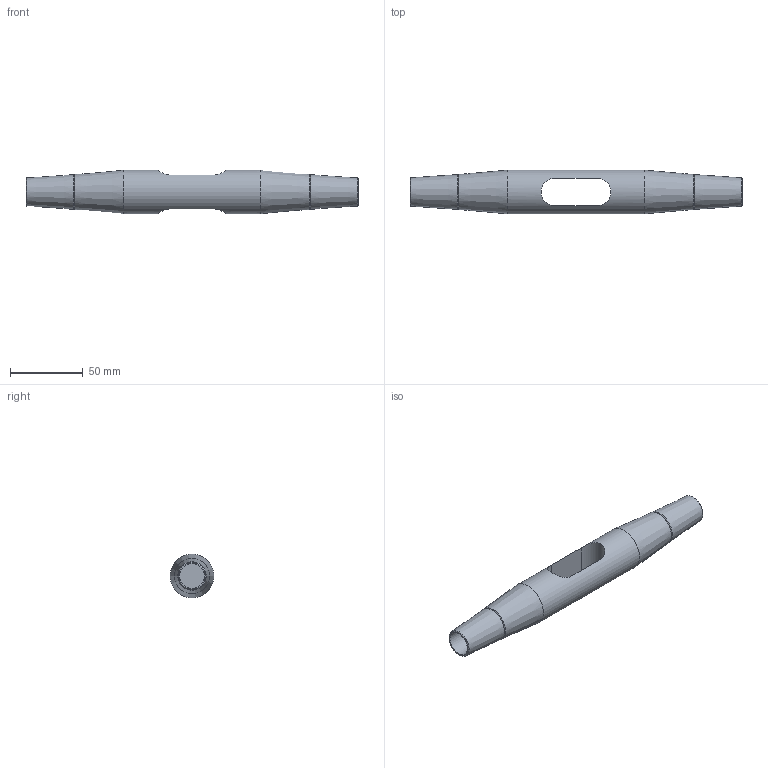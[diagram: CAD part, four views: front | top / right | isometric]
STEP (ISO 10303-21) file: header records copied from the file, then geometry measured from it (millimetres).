
FILE_DESCRIPTION(/* description */ (''),/* implementation_level */ '2;1');
FILE_NAME(/* name */ 'G:\Engineering\700 CAD\Internet-PX-1-step-igs-dxf\520-KMF-Arbeitsdateien\520-016-KMF.stp',/* time_stamp */ '2020-07-02T13:18:37+02:00',/* author */ ('schwarz'),/* organization */ (''),/* preprocessor_version */ 'ST-DEVELOPER v16.1',/* originating_system */ 'Autodesk Inventor 2016',/* authorisation */ '');
FILE_SCHEMA (('AUTOMOTIVE_DESIGN { 1 0 10303 214 3 1 1 }'));
Length unit declared in the file: centimetre
Products named in the file (1): Kreuzmuffen-Set 520 016 Kunde
Bounding box: 228 x 30 x 30 mm (x, y, z)
Volume: 95410.4 mm3; surface area: 23554.4 mm2
Topology: 1 solids, 1 shells, 21 faces, 43 edges, 26 vertices
Faces by surface type: cone 10, plane 6, cylinder 5
Full cylindrical faces by diameter (mm): 16.8 x2, 30 x1
Entity records: 605 total; most frequent: CARTESIAN_POINT 158, DIRECTION 84, ORIENTED_EDGE 56, EDGE_LOOP 38, AXIS2_PLACEMENT_3D 38, EDGE_CURVE 28, VERTEX_POINT 24, STYLED_ITEM 22
